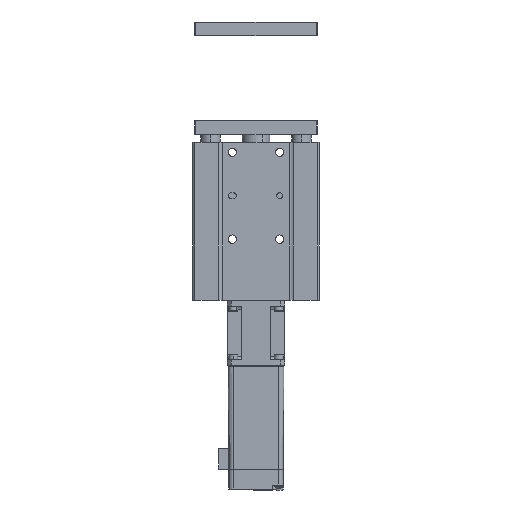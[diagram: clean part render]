
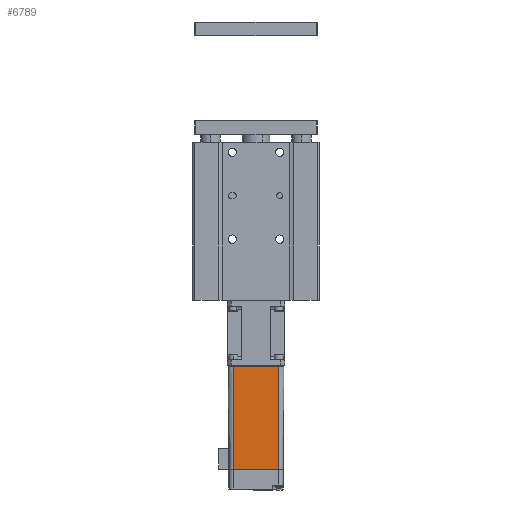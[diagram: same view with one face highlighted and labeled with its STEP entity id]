
A CAD part, front view. The second image highlights one B-rep face of the part: STEP entity #6789.
In plain terms, the highlighted planar face has unit normal (0, -1, -0.009) as drawn and (0, 1, 0.009) by its records, which use the part's own axes.
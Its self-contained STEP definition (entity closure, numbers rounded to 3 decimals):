
#324 = EDGE_CURVE ( 'NONE', #10251, #7060, #9228, .T. ) ;
#865 = DIRECTION ( 'NONE',  ( 0., -0.009, 1. ) ) ;
#915 = EDGE_CURVE ( 'NONE', #8605, #11395, #11433, .T. ) ;
#1186 = CARTESIAN_POINT ( 'NONE',  ( 12.409, 7.915, 99.15 ) ) ;
#1249 = VECTOR ( 'NONE', #865, 1000. ) ;
#1876 = FACE_OUTER_BOUND ( 'NONE', #2042, .T. ) ;
#2042 = EDGE_LOOP ( 'NONE', ( #3302, #8159, #9961, #5815 ) ) ;
#2099 = DIRECTION ( 'NONE',  ( 0., -0.009, 1. ) ) ;
#2353 = EDGE_CURVE ( 'NONE', #10251, #8605, #7341, .T. ) ;
#2405 = VECTOR ( 'NONE', #5532, 1000. ) ;
#2991 = CARTESIAN_POINT ( 'NONE',  ( 12.409, 7.915, 99.15 ) ) ;
#3302 = ORIENTED_EDGE ( 'NONE', *, *, #324, .F. ) ;
#4234 = CARTESIAN_POINT ( 'NONE',  ( -10.891, 7.915, 99.15 ) ) ;
#5337 = PLANE ( 'NONE',  #7267 ) ;
#5532 = DIRECTION ( 'NONE',  ( -1., 0., 0. ) ) ;
#5815 = ORIENTED_EDGE ( 'NONE', *, *, #7035, .T. ) ;
#6389 = DIRECTION ( 'NONE',  ( 0., 1., 0.009 ) ) ;
#6789 = ADVANCED_FACE ( 'NONE', ( #1876 ), #5337, .T. ) ;
#7035 = EDGE_CURVE ( 'NONE', #11395, #7060, #7376, .T. ) ;
#7060 = VERTEX_POINT ( 'NONE', #1186 ) ;
#7196 = DIRECTION ( 'NONE',  ( 0., -0.009, 1. ) ) ;
#7267 = AXIS2_PLACEMENT_3D ( 'NONE', #11915, #6389, #7196 ) ;
#7327 = CARTESIAN_POINT ( 'NONE',  ( 12.409, 8.373, 46.65 ) ) ;
#7341 = LINE ( 'NONE', #11072, #2405 ) ;
#7376 = LINE ( 'NONE', #2991, #7679 ) ;
#7679 = VECTOR ( 'NONE', #7727, 1000. ) ;
#7727 = DIRECTION ( 'NONE',  ( 1., 0., 0. ) ) ;
#8159 = ORIENTED_EDGE ( 'NONE', *, *, #2353, .T. ) ;
#8522 = VECTOR ( 'NONE', #2099, 1000. ) ;
#8605 = VERTEX_POINT ( 'NONE', #9409 ) ;
#9228 = LINE ( 'NONE', #7327, #8522 ) ;
#9338 = CARTESIAN_POINT ( 'NONE',  ( -10.891, 8.373, 46.65 ) ) ;
#9409 = CARTESIAN_POINT ( 'NONE',  ( -10.891, 8.37, 46.95 ) ) ;
#9961 = ORIENTED_EDGE ( 'NONE', *, *, #915, .T. ) ;
#10251 = VERTEX_POINT ( 'NONE', #10759 ) ;
#10759 = CARTESIAN_POINT ( 'NONE',  ( 12.409, 8.37, 46.95 ) ) ;
#11072 = CARTESIAN_POINT ( 'NONE',  ( 12.409, 8.37, 46.95 ) ) ;
#11395 = VERTEX_POINT ( 'NONE', #4234 ) ;
#11433 = LINE ( 'NONE', #9338, #1249 ) ;
#11915 = CARTESIAN_POINT ( 'NONE',  ( 12.409, 8.373, 46.65 ) ) ;
